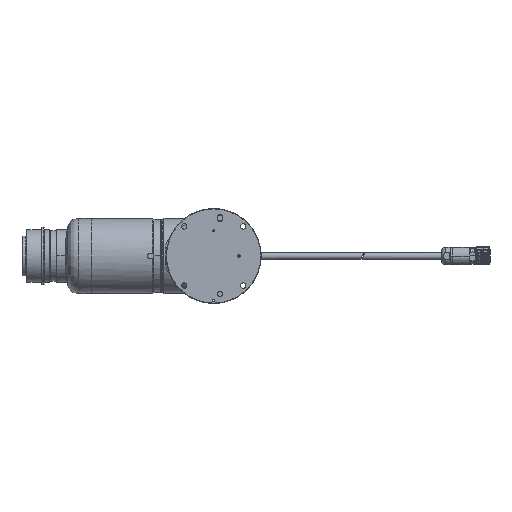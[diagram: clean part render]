
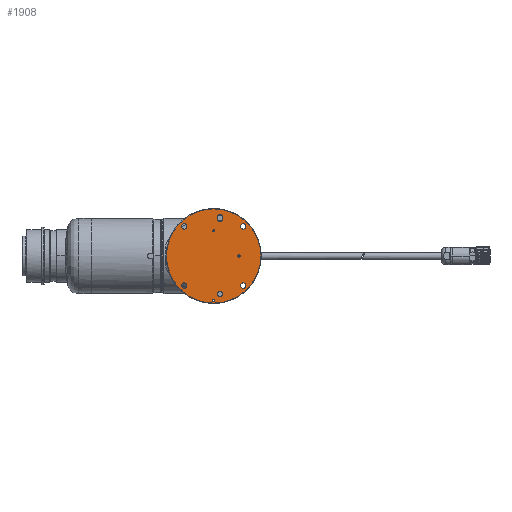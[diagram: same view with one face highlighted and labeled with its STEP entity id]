
A CAD part, front view. The second image highlights one B-rep face of the part: STEP entity #1908.
In plain terms, the highlighted planar face has unit normal (0, -1, 0).
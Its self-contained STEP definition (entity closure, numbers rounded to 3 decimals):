
#90=CARTESIAN_POINT('',(-46.669,0.,-46.669));
#91=DIRECTION('',(0.,1.,0.));
#92=DIRECTION('',(1.,0.,0.));
#93=AXIS2_PLACEMENT_3D('',#90,#91,#92);
#98=CARTESIAN_POINT('',(-46.669,0.,-46.669));
#99=DIRECTION('',(0.,1.,0.));
#100=DIRECTION('',(-1.,0.,0.));
#101=AXIS2_PLACEMENT_3D('',#98,#99,#100);
#106=CARTESIAN_POINT('',(46.669,0.,-46.669));
#107=DIRECTION('',(0.,1.,0.));
#108=DIRECTION('',(0.,0.,1.));
#109=AXIS2_PLACEMENT_3D('',#106,#107,#108);
#114=CARTESIAN_POINT('',(46.669,0.,-46.669));
#115=DIRECTION('',(0.,1.,0.));
#116=DIRECTION('',(0.,0.,-1.));
#117=AXIS2_PLACEMENT_3D('',#114,#115,#116);
#122=CARTESIAN_POINT('',(46.669,0.,46.669));
#123=DIRECTION('',(0.,1.,0.));
#124=DIRECTION('',(-1.,0.,0.));
#125=AXIS2_PLACEMENT_3D('',#122,#123,#124);
#130=CARTESIAN_POINT('',(46.669,0.,46.669));
#131=DIRECTION('',(0.,1.,0.));
#132=DIRECTION('',(1.,0.,0.));
#133=AXIS2_PLACEMENT_3D('',#130,#131,#132);
#138=CARTESIAN_POINT('',(-46.669,0.,46.669));
#139=DIRECTION('',(0.,1.,0.));
#140=DIRECTION('',(0.,0.,-1.));
#141=AXIS2_PLACEMENT_3D('',#138,#139,#140);
#146=CARTESIAN_POINT('',(-46.669,0.,46.669));
#147=DIRECTION('',(0.,1.,0.));
#148=DIRECTION('',(0.,0.,1.));
#149=AXIS2_PLACEMENT_3D('',#146,#147,#148);
#154=CARTESIAN_POINT('',(0.,0.,0.));
#155=DIRECTION('',(0.,1.,0.));
#156=DIRECTION('',(1.,0.,0.));
#157=AXIS2_PLACEMENT_3D('',#154,#155,#156);
#162=CARTESIAN_POINT('',(0.,0.,0.));
#163=DIRECTION('',(0.,1.,0.));
#164=DIRECTION('',(-1.,0.,0.));
#165=AXIS2_PLACEMENT_3D('',#162,#163,#164);
#170=CARTESIAN_POINT('',(10.,0.,-60.));
#171=DIRECTION('',(0.,1.,0.));
#172=DIRECTION('',(0.,0.,1.));
#173=AXIS2_PLACEMENT_3D('',#170,#171,#172);
#178=CARTESIAN_POINT('',(10.,0.,-60.));
#179=DIRECTION('',(0.,1.,0.));
#180=DIRECTION('',(0.,0.,-1.));
#181=AXIS2_PLACEMENT_3D('',#178,#179,#180);
#186=CARTESIAN_POINT('',(10.,0.,61.));
#187=DIRECTION('',(0.,1.,0.));
#188=DIRECTION('',(-1.,0.,0.));
#189=AXIS2_PLACEMENT_3D('',#186,#187,#188);
#194=DIRECTION('',(0.,0.,1.));
#195=VECTOR('',#194,2.);
#196=CARTESIAN_POINT('',(5.5,0.,59.));
#197=LINE('',#196,#195);
#201=CARTESIAN_POINT('',(10.,0.,59.));
#202=DIRECTION('',(0.,1.,0.));
#203=DIRECTION('',(1.,0.,0.));
#204=AXIS2_PLACEMENT_3D('',#201,#202,#203);
#209=DIRECTION('',(0.,0.,-1.));
#210=VECTOR('',#209,2.);
#211=CARTESIAN_POINT('',(14.5,0.,61.));
#212=LINE('',#211,#210);
#216=CARTESIAN_POINT('',(0.,0.,-70.));
#217=DIRECTION('',(0.,1.,0.));
#218=DIRECTION('',(1.,0.,0.));
#219=AXIS2_PLACEMENT_3D('',#216,#217,#218);
#224=CARTESIAN_POINT('',(0.,0.,-70.));
#225=DIRECTION('',(0.,1.,0.));
#226=DIRECTION('',(-1.,0.,0.));
#227=AXIS2_PLACEMENT_3D('',#224,#225,#226);
#1629=CARTESIAN_POINT('',(-42.469,0.,-46.669));
#1630=CARTESIAN_POINT('',(-50.869,0.,-46.669));
#1631=VERTEX_POINT('',#1629);
#1632=VERTEX_POINT('',#1630);
#1644=CARTESIAN_POINT('',(46.669,0.,-42.469));
#1645=CARTESIAN_POINT('',(46.669,0.,-50.869));
#1646=VERTEX_POINT('',#1644);
#1647=VERTEX_POINT('',#1645);
#1659=CARTESIAN_POINT('',(42.469,0.,46.669));
#1660=CARTESIAN_POINT('',(50.869,0.,46.669));
#1661=VERTEX_POINT('',#1659);
#1662=VERTEX_POINT('',#1660);
#1674=CARTESIAN_POINT('',(-46.669,0.,42.469));
#1675=CARTESIAN_POINT('',(-46.669,0.,50.869));
#1676=VERTEX_POINT('',#1674);
#1677=VERTEX_POINT('',#1675);
#1710=CARTESIAN_POINT('',(74.5,0.,0.));
#1711=CARTESIAN_POINT('',(-74.5,0.,0.));
#1712=VERTEX_POINT('',#1710);
#1713=VERTEX_POINT('',#1711);
#1745=CARTESIAN_POINT('',(10.,0.,-55.5));
#1746=CARTESIAN_POINT('',(10.,0.,-64.5));
#1747=VERTEX_POINT('',#1745);
#1748=VERTEX_POINT('',#1746);
#1763=CARTESIAN_POINT('',(5.5,0.,61.));
#1764=CARTESIAN_POINT('',(14.5,0.,61.));
#1765=VERTEX_POINT('',#1763);
#1766=VERTEX_POINT('',#1764);
#1771=CARTESIAN_POINT('',(14.5,0.,59.));
#1772=VERTEX_POINT('',#1771);
#1775=CARTESIAN_POINT('',(5.5,0.,59.));
#1776=VERTEX_POINT('',#1775);
#1791=CARTESIAN_POINT('',(1.65,0.,-70.));
#1792=CARTESIAN_POINT('',(-1.65,0.,-70.));
#1793=VERTEX_POINT('',#1791);
#1794=VERTEX_POINT('',#1792);
#1852=CARTESIAN_POINT('',(0.,0.,0.));
#1853=DIRECTION('',(0.,-1.,0.));
#1854=DIRECTION('',(-1.,0.,0.));
#1855=AXIS2_PLACEMENT_3D('',#1852,#1853,#1854);
#1856=PLANE('',#1855);
#1858=ORIENTED_EDGE('',*,*,#1857,.T.);
#1860=ORIENTED_EDGE('',*,*,#1859,.T.);
#1861=EDGE_LOOP('',(#1858,#1860));
#1862=FACE_OUTER_BOUND('',#1861,.F.);
#1864=ORIENTED_EDGE('',*,*,#1863,.F.);
#1866=ORIENTED_EDGE('',*,*,#1865,.F.);
#1867=EDGE_LOOP('',(#1864,#1866));
#1868=FACE_BOUND('',#1867,.F.);
#1870=ORIENTED_EDGE('',*,*,#1869,.F.);
#1872=ORIENTED_EDGE('',*,*,#1871,.F.);
#1873=EDGE_LOOP('',(#1870,#1872));
#1874=FACE_BOUND('',#1873,.F.);
#1876=ORIENTED_EDGE('',*,*,#1875,.F.);
#1878=ORIENTED_EDGE('',*,*,#1877,.F.);
#1879=EDGE_LOOP('',(#1876,#1878));
#1880=FACE_BOUND('',#1879,.F.);
#1882=ORIENTED_EDGE('',*,*,#1881,.F.);
#1884=ORIENTED_EDGE('',*,*,#1883,.F.);
#1885=EDGE_LOOP('',(#1882,#1884));
#1886=FACE_BOUND('',#1885,.F.);
#1888=ORIENTED_EDGE('',*,*,#1887,.F.);
#1890=ORIENTED_EDGE('',*,*,#1889,.F.);
#1891=EDGE_LOOP('',(#1888,#1890));
#1892=FACE_BOUND('',#1891,.F.);
#1893=ORIENTED_EDGE('',*,*,#1842,.F.);
#1895=ORIENTED_EDGE('',*,*,#1894,.F.);
#1897=ORIENTED_EDGE('',*,*,#1896,.F.);
#1899=ORIENTED_EDGE('',*,*,#1898,.F.);
#1900=EDGE_LOOP('',(#1893,#1895,#1897,#1899));
#1901=FACE_BOUND('',#1900,.F.);
#1903=ORIENTED_EDGE('',*,*,#1902,.F.);
#1905=ORIENTED_EDGE('',*,*,#1904,.F.);
#1906=EDGE_LOOP('',(#1903,#1905));
#1907=FACE_BOUND('',#1906,.F.);
#94=CIRCLE('',#93,4.2);
#102=CIRCLE('',#101,4.2);
#110=CIRCLE('',#109,4.2);
#118=CIRCLE('',#117,4.2);
#126=CIRCLE('',#125,4.2);
#134=CIRCLE('',#133,4.2);
#142=CIRCLE('',#141,4.2);
#150=CIRCLE('',#149,4.2);
#158=CIRCLE('',#157,74.5);
#166=CIRCLE('',#165,74.5);
#174=CIRCLE('',#173,4.5);
#182=CIRCLE('',#181,4.5);
#190=CIRCLE('',#189,4.5);
#205=CIRCLE('',#204,4.5);
#220=CIRCLE('',#219,1.65);
#228=CIRCLE('',#227,1.65);
#1842=EDGE_CURVE('',#1765,#1766,#190,.T.);
#1857=EDGE_CURVE('',#1712,#1713,#158,.T.);
#1859=EDGE_CURVE('',#1713,#1712,#166,.T.);
#1863=EDGE_CURVE('',#1646,#1647,#110,.T.);
#1865=EDGE_CURVE('',#1647,#1646,#118,.T.);
#1869=EDGE_CURVE('',#1661,#1662,#126,.T.);
#1871=EDGE_CURVE('',#1662,#1661,#134,.T.);
#1875=EDGE_CURVE('',#1676,#1677,#142,.T.);
#1877=EDGE_CURVE('',#1677,#1676,#150,.T.);
#1881=EDGE_CURVE('',#1631,#1632,#94,.T.);
#1883=EDGE_CURVE('',#1632,#1631,#102,.T.);
#1887=EDGE_CURVE('',#1747,#1748,#174,.T.);
#1889=EDGE_CURVE('',#1748,#1747,#182,.T.);
#1894=EDGE_CURVE('',#1776,#1765,#197,.T.);
#1896=EDGE_CURVE('',#1772,#1776,#205,.T.);
#1898=EDGE_CURVE('',#1766,#1772,#212,.T.);
#1902=EDGE_CURVE('',#1793,#1794,#220,.T.);
#1904=EDGE_CURVE('',#1794,#1793,#228,.T.);
#1908=ADVANCED_FACE('',(#1862,#1868,#1874,#1880,#1886,#1892,#1901,#1907),#1856,
.T.);
